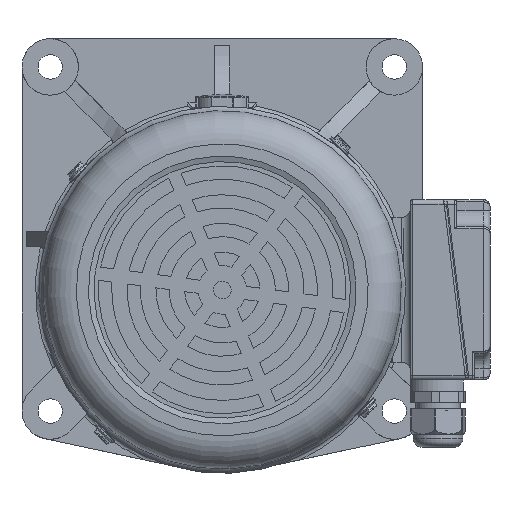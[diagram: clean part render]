
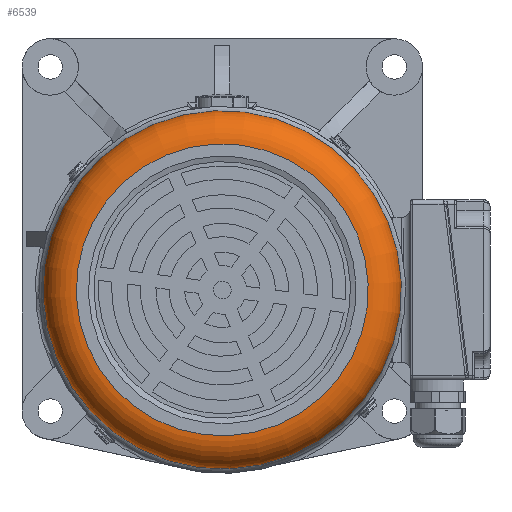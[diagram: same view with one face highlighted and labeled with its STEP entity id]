
A CAD part, left-side view. The second image highlights one B-rep face of the part: STEP entity #6539.
In plain terms, the highlighted toroidal (fillet/blend) face has major radius 66 mm and minor radius 15 mm.
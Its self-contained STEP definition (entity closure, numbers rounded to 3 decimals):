
#1091=FACE_BOUND('',#15264,.T.);
#1092=FACE_BOUND('',#15265,.T.);
#1302=TOROIDAL_SURFACE('',#63785,66.,15.);
#6539=ADVANCED_FACE('',(#1091,#1092),#1302,.T.);
#15264=EDGE_LOOP('',(#28937));
#15265=EDGE_LOOP('',(#28938));
#28937=ORIENTED_EDGE('',*,*,#46042,.T.);
#28938=ORIENTED_EDGE('',*,*,#46043,.F.);
#38326=VERTEX_POINT('',#107745);
#38327=VERTEX_POINT('',#107747);
#46042=EDGE_CURVE('',#38326,#38326,#49545,.T.);
#46043=EDGE_CURVE('',#38327,#38327,#49546,.T.);
#49545=CIRCLE('',#63783,66.);
#49546=CIRCLE('',#63784,81.);
#63783=AXIS2_PLACEMENT_3D('',#107744,#76641,#76642);
#63784=AXIS2_PLACEMENT_3D('',#107746,#76643,#76644);
#63785=AXIS2_PLACEMENT_3D('',#107748,#76645,#76646);
#76641=DIRECTION('',(1.,0.,0.));
#76642=DIRECTION('',(0.,0.609,-0.793));
#76643=DIRECTION('',(1.,0.,0.));
#76644=DIRECTION('',(0.,0.609,-0.793));
#76645=DIRECTION('',(1.,0.,0.));
#76646=DIRECTION('',(0.,0.609,-0.793));
#107744=CARTESIAN_POINT('',(899.538,666.475,-710.796));
#107745=CARTESIAN_POINT('',(899.538,706.653,-763.157));
#107746=CARTESIAN_POINT('',(914.538,666.475,-710.796));
#107747=CARTESIAN_POINT('',(914.538,715.784,-775.058));
#107748=CARTESIAN_POINT('',(914.538,666.475,-710.796));
